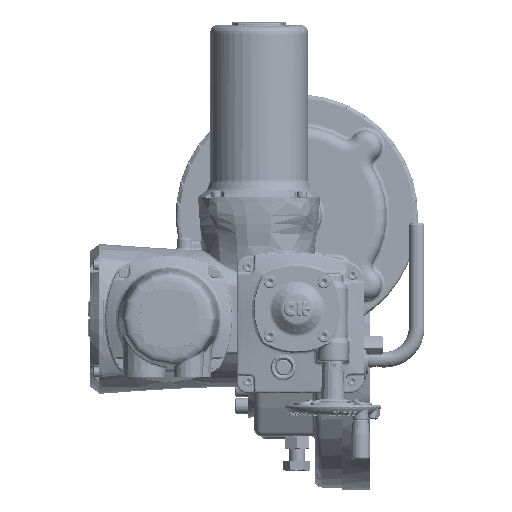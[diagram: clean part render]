
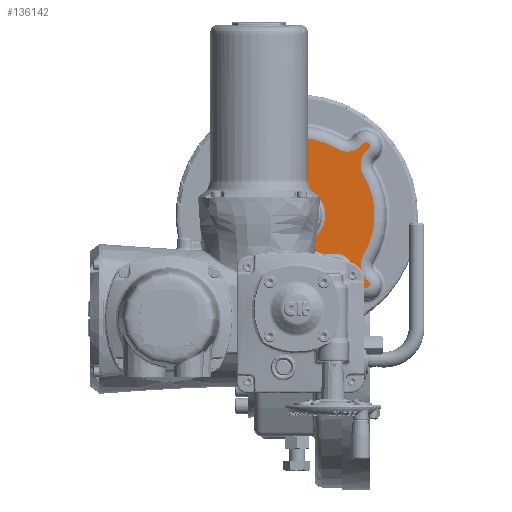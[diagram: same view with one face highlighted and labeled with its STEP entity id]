
A CAD part, top view. The second image highlights one B-rep face of the part: STEP entity #136142.
In plain terms, the highlighted planar face has unit normal (0, 0, 1) as drawn and (1, 0, 0) by its records, which use the part's own axes.
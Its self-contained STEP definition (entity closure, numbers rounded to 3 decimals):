
#10976=PLANE('',#143640);
#14815=LINE('',#250446,#18895);
#14836=LINE('',#250656,#18916);
#14837=LINE('',#250659,#18917);
#18895=VECTOR('',#159295,1000.);
#18916=VECTOR('',#159414,1000.);
#18917=VECTOR('',#159417,1000.);
#39702=ORIENTED_EDGE('',*,*,#58262,.T.);
#39703=ORIENTED_EDGE('',*,*,#58261,.T.);
#39704=ORIENTED_EDGE('',*,*,#58260,.T.);
#39705=ORIENTED_EDGE('',*,*,#58257,.T.);
#39706=ORIENTED_EDGE('',*,*,#58256,.T.);
#39707=ORIENTED_EDGE('',*,*,#58254,.T.);
#39708=ORIENTED_EDGE('',*,*,#58252,.T.);
#39709=ORIENTED_EDGE('',*,*,#58249,.T.);
#39710=ORIENTED_EDGE('',*,*,#58248,.T.);
#39711=ORIENTED_EDGE('',*,*,#58246,.T.);
#39712=ORIENTED_EDGE('',*,*,#58244,.T.);
#39713=ORIENTED_EDGE('',*,*,#58313,.T.);
#39714=ORIENTED_EDGE('',*,*,#58316,.T.);
#39715=ORIENTED_EDGE('',*,*,#58317,.T.);
#39716=ORIENTED_EDGE('',*,*,#58264,.T.);
#39717=ORIENTED_EDGE('',*,*,#58277,.T.);
#39718=ORIENTED_EDGE('',*,*,#58318,.T.);
#39719=ORIENTED_EDGE('',*,*,#58272,.T.);
#39720=ORIENTED_EDGE('',*,*,#58240,.T.);
#39721=ORIENTED_EDGE('',*,*,#58236,.T.);
#39722=ORIENTED_EDGE('',*,*,#58235,.T.);
#58235=EDGE_CURVE('',#68588,#68589,#74284,.F.);
#58236=EDGE_CURVE('',#68590,#68588,#74285,.T.);
#58240=EDGE_CURVE('',#68591,#68590,#74289,.F.);
#58244=EDGE_CURVE('',#68593,#68595,#74293,.F.);
#58246=EDGE_CURVE('',#68596,#68593,#74295,.T.);
#58248=EDGE_CURVE('',#68597,#68596,#74297,.F.);
#58249=EDGE_CURVE('',#68598,#68597,#74298,.T.);
#58252=EDGE_CURVE('',#68599,#68598,#74301,.F.);
#58254=EDGE_CURVE('',#68600,#68599,#74303,.T.);
#58256=EDGE_CURVE('',#68601,#68600,#74305,.F.);
#58257=EDGE_CURVE('',#68602,#68601,#74306,.T.);
#58260=EDGE_CURVE('',#68603,#68602,#74309,.F.);
#58261=EDGE_CURVE('',#68589,#68603,#74310,.T.);
#58262=EDGE_CURVE('',#68604,#68604,#74311,.T.);
#58264=EDGE_CURVE('',#68607,#68606,#14815,.F.);
#58272=EDGE_CURVE('',#68610,#68591,#74316,.T.);
#58277=EDGE_CURVE('',#68606,#68615,#74321,.T.);
#58313=EDGE_CURVE('',#68595,#68633,#74339,.T.);
#58316=EDGE_CURVE('',#68633,#68635,#14836,.F.);
#58317=EDGE_CURVE('',#68635,#68607,#74340,.T.);
#58318=EDGE_CURVE('',#68615,#68610,#14837,.F.);
#68588=VERTEX_POINT('',#250383);
#68589=VERTEX_POINT('',#250385);
#68590=VERTEX_POINT('',#250389);
#68591=VERTEX_POINT('',#250393);
#68593=VERTEX_POINT('',#250399);
#68595=VERTEX_POINT('',#250403);
#68596=VERTEX_POINT('',#250407);
#68597=VERTEX_POINT('',#250411);
#68598=VERTEX_POINT('',#250415);
#68599=VERTEX_POINT('',#250419);
#68600=VERTEX_POINT('',#250423);
#68601=VERTEX_POINT('',#250427);
#68602=VERTEX_POINT('',#250431);
#68603=VERTEX_POINT('',#250435);
#68604=VERTEX_POINT('',#250441);
#68606=VERTEX_POINT('',#250445);
#68607=VERTEX_POINT('',#250447);
#68610=VERTEX_POINT('',#250500);
#68615=VERTEX_POINT('',#250525);
#68633=VERTEX_POINT('',#250596);
#68635=VERTEX_POINT('',#250657);
#74284=CIRCLE('',#143549,79.5);
#74285=CIRCLE('',#143551,20.);
#74289=CIRCLE('',#143556,4.);
#74293=CIRCLE('',#143561,4.);
#74295=CIRCLE('',#143564,20.);
#74297=CIRCLE('',#143567,79.5);
#74298=CIRCLE('',#143569,20.);
#74301=CIRCLE('',#143573,4.);
#74303=CIRCLE('',#143576,20.);
#74305=CIRCLE('',#143579,79.5);
#74306=CIRCLE('',#143581,20.);
#74309=CIRCLE('',#143585,4.);
#74310=CIRCLE('',#143587,20.);
#74311=CIRCLE('',#143589,29.);
#74316=CIRCLE('',#143597,20.);
#74321=CIRCLE('',#143604,16.5);
#74339=CIRCLE('',#143639,20.);
#74340=CIRCLE('',#143641,16.5);
#79676=EDGE_LOOP('',(#39702));
#79677=EDGE_LOOP('',(#39703,#39704,#39705,#39706,#39707,#39708,#39709,#39710,
#39711,#39712,#39713,#39714,#39715,#39716,#39717,#39718,#39719,#39720,#39721,
#39722));
#86804=FACE_BOUND('',#79676,.T.);
#86805=FACE_BOUND('',#79677,.T.);
#136142=ADVANCED_FACE('',(#86804,#86805),#10976,.F.);
#143549=AXIS2_PLACEMENT_3D('',#250386,#159209,#159210);
#143551=AXIS2_PLACEMENT_3D('',#250388,#159213,#159214);
#143556=AXIS2_PLACEMENT_3D('',#250396,#159223,#159224);
#143561=AXIS2_PLACEMENT_3D('',#250404,#159233,#159234);
#143564=AXIS2_PLACEMENT_3D('',#250408,#159239,#159240);
#143567=AXIS2_PLACEMENT_3D('',#250412,#159245,#159246);
#143569=AXIS2_PLACEMENT_3D('',#250414,#159249,#159250);
#143573=AXIS2_PLACEMENT_3D('',#250420,#159257,#159258);
#143576=AXIS2_PLACEMENT_3D('',#250424,#159263,#159264);
#143579=AXIS2_PLACEMENT_3D('',#250428,#159269,#159270);
#143581=AXIS2_PLACEMENT_3D('',#250430,#159273,#159274);
#143585=AXIS2_PLACEMENT_3D('',#250436,#159281,#159282);
#143587=AXIS2_PLACEMENT_3D('',#250438,#159285,#159286);
#143589=AXIS2_PLACEMENT_3D('',#250440,#159289,#159290);
#143597=AXIS2_PLACEMENT_3D('',#250515,#159308,#159309);
#143604=AXIS2_PLACEMENT_3D('',#250526,#159322,#159323);
#143639=AXIS2_PLACEMENT_3D('',#250597,#159410,#159411);
#143640=AXIS2_PLACEMENT_3D('',#250655,#159412,#159413);
#143641=AXIS2_PLACEMENT_3D('',#250658,#159415,#159416);
#159209=DIRECTION('',(-1.,0.,0.));
#159210=DIRECTION('',(0.,0.,-1.));
#159213=DIRECTION('',(-1.,0.,0.));
#159214=DIRECTION('',(0.,0.,-1.));
#159223=DIRECTION('',(-1.,0.,0.));
#159224=DIRECTION('',(0.,0.,-1.));
#159233=DIRECTION('',(-1.,0.,0.));
#159234=DIRECTION('',(0.,0.,-1.));
#159239=DIRECTION('',(-1.,0.,0.));
#159240=DIRECTION('',(0.,0.,-1.));
#159245=DIRECTION('',(-1.,0.,0.));
#159246=DIRECTION('',(0.,0.,-1.));
#159249=DIRECTION('',(-1.,0.,0.));
#159250=DIRECTION('',(0.,0.,-1.));
#159257=DIRECTION('',(-1.,0.,0.));
#159258=DIRECTION('',(0.,0.,-1.));
#159263=DIRECTION('',(-1.,0.,0.));
#159264=DIRECTION('',(0.,0.,-1.));
#159269=DIRECTION('',(-1.,0.,0.));
#159270=DIRECTION('',(0.,0.,-1.));
#159273=DIRECTION('',(-1.,0.,0.));
#159274=DIRECTION('',(0.,0.,-1.));
#159281=DIRECTION('',(-1.,0.,0.));
#159282=DIRECTION('',(0.,0.,-1.));
#159285=DIRECTION('',(-1.,0.,0.));
#159286=DIRECTION('',(0.,0.,-1.));
#159289=DIRECTION('',(-1.,0.,0.));
#159290=DIRECTION('',(0.,0.,-1.));
#159295=DIRECTION('',(0.,0.,1.));
#159308=DIRECTION('',(-1.,0.,0.));
#159309=DIRECTION('',(0.,0.,-1.));
#159322=DIRECTION('',(-1.,0.,0.));
#159323=DIRECTION('',(0.,0.,-1.));
#159410=DIRECTION('',(-1.,0.,0.));
#159411=DIRECTION('',(0.,0.,-1.));
#159412=DIRECTION('',(-1.,0.,0.));
#159413=DIRECTION('',(0.,0.,-1.));
#159414=DIRECTION('',(0.,-1.,0.));
#159415=DIRECTION('',(-1.,0.,0.));
#159416=DIRECTION('',(0.,0.,-1.));
#159417=DIRECTION('',(0.,1.,0.));
#250383=CARTESIAN_POINT('',(254.44,94.751,-68.013));
#250385=CARTESIAN_POINT('',(254.44,177.079,-68.013));
#250386=CARTESIAN_POINT('',(254.44,135.915,0.));
#250388=CARTESIAN_POINT('',(254.44,84.395,-85.123));
#250389=CARTESIAN_POINT('',(254.44,68.403,-73.113));
#250393=CARTESIAN_POINT('',(254.44,61.546,-69.092));
#250396=CARTESIAN_POINT('',(254.44,65.204,-70.711));
#250399=CARTESIAN_POINT('',(254.44,68.403,73.113));
#250403=CARTESIAN_POINT('',(254.44,61.546,69.092));
#250404=CARTESIAN_POINT('',(254.44,65.204,70.711));
#250407=CARTESIAN_POINT('',(254.44,94.751,68.013));
#250408=CARTESIAN_POINT('',(254.44,84.395,85.123));
#250411=CARTESIAN_POINT('',(254.44,177.079,68.013));
#250412=CARTESIAN_POINT('',(254.44,135.915,0.));
#250414=CARTESIAN_POINT('',(254.44,187.435,85.123));
#250415=CARTESIAN_POINT('',(254.44,203.427,73.113));
#250419=CARTESIAN_POINT('',(254.44,209.028,67.512));
#250420=CARTESIAN_POINT('',(254.44,206.626,70.711));
#250423=CARTESIAN_POINT('',(254.44,203.928,41.164));
#250424=CARTESIAN_POINT('',(254.44,221.038,51.52));
#250427=CARTESIAN_POINT('',(254.44,203.928,-41.164));
#250428=CARTESIAN_POINT('',(254.44,135.915,0.));
#250430=CARTESIAN_POINT('',(254.44,221.038,-51.52));
#250431=CARTESIAN_POINT('',(254.44,209.028,-67.512));
#250435=CARTESIAN_POINT('',(254.44,203.427,-73.113));
#250436=CARTESIAN_POINT('',(254.44,206.626,-70.711));
#250438=CARTESIAN_POINT('',(254.44,187.435,-85.123));
#250440=CARTESIAN_POINT('',(254.44,135.915,0.));
#250441=CARTESIAN_POINT('',(254.44,135.915,-29.));
#250445=CARTESIAN_POINT('',(254.44,96.495,-40.5));
#250446=CARTESIAN_POINT('',(254.44,96.495,-40.5));
#250447=CARTESIAN_POINT('',(254.44,96.495,40.5));
#250500=CARTESIAN_POINT('',(254.44,62.853,-57.));
#250515=CARTESIAN_POINT('',(254.44,43.257,-61.));
#250525=CARTESIAN_POINT('',(254.44,79.995,-57.));
#250526=CARTESIAN_POINT('',(254.44,79.995,-40.5));
#250596=CARTESIAN_POINT('',(254.44,62.853,57.));
#250597=CARTESIAN_POINT('',(254.44,43.257,61.));
#250655=CARTESIAN_POINT('',(254.44,135.915,0.));
#250656=CARTESIAN_POINT('',(254.44,79.995,57.));
#250657=CARTESIAN_POINT('',(254.44,79.995,57.));
#250658=CARTESIAN_POINT('',(254.44,79.995,40.5));
#250659=CARTESIAN_POINT('',(254.44,43.257,-57.));
